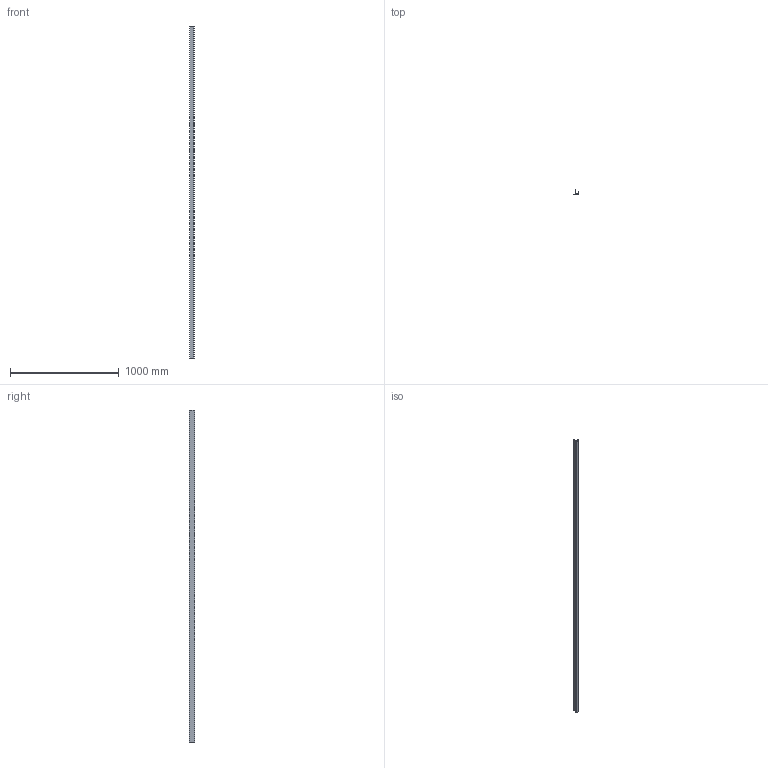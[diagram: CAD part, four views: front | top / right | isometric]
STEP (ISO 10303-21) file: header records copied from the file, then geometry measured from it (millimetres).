
FILE_DESCRIPTION (( 'STEP AP203' ), '1' );
FILE_NAME ('M03E.STEP', '2018-06-18T23:54:30', ( 'Michael Moliner' ), ( '' ), 'SwSTEP 2.0', 'SolidWorks 2018', '' );
FILE_SCHEMA (( 'CONFIG_CONTROL_DESIGN' ));
Length unit declared in the file: inch
Products named in the file (2): M03E
Bounding box: 41.68 x 46.23 x 3048 mm (x, y, z)
Volume: 228039.5 mm3; surface area: 901039.9 mm2
Topology: 1 solids, 1 shells, 22 faces, 60 edges, 40 vertices
Faces by surface type: plane 14, cylinder 8
Entity records: 857 total; most frequent: CARTESIAN_POINT 124, DIRECTION 124, ORIENTED_EDGE 120, EDGE_CURVE 60, VECTOR 44, LINE 44, VERTEX_POINT 40, AXIS2_PLACEMENT_3D 40
